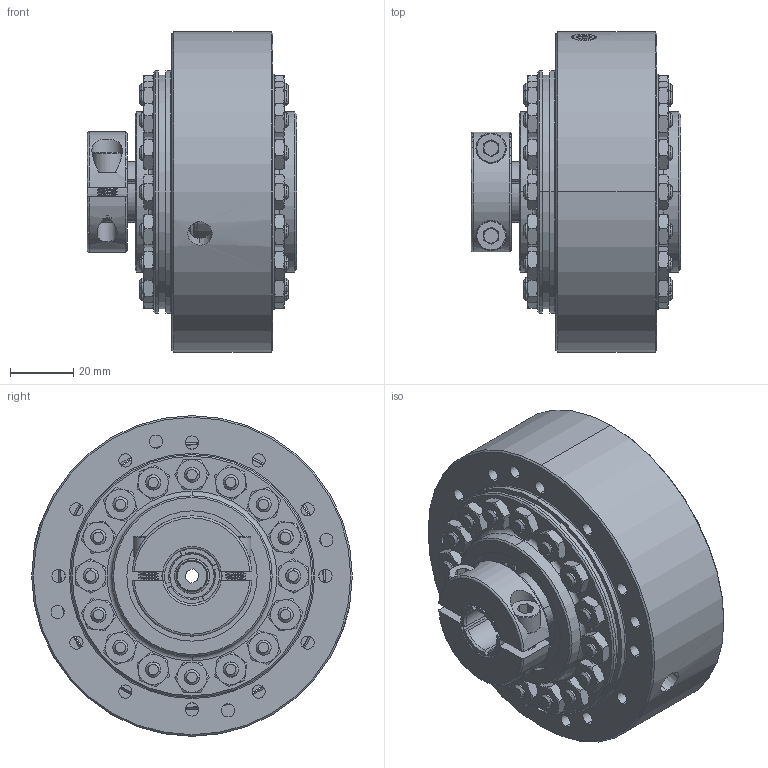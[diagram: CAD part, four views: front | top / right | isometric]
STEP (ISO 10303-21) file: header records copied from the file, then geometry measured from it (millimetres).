
FILE_DESCRIPTION (( 'STEP AP214' ), '1' );
FILE_NAME ('DM02RRRFTLN0000.STEP', '2019-10-30T16:56:05', ( '' ), ( '' ), 'SwSTEP 2.0', 'SolidWorks 2019', '' );
FILE_SCHEMA (( 'AUTOMOTIVE_DESIGN' ));
Length unit declared in the file: millimetre
Products named in the file (1): DM02RRRFTLN0000
Bounding box: 66.5 x 101.6 x 101.6 mm (x, y, z)
Surface area: 64312.5 mm2 (no closed solid volume)
Topology: 0 solids, 84 shells, 1075 faces, 3003 edges, 1986 vertices
Faces by surface type: cone 360, plane 315, cylinder 296, torus 48, sphere 48, bspline 8
Entity records: 56513 total; most frequent: CARTESIAN_POINT 18858, DIRECTION 5201, ORIENTED_EDGE 5098, EDGE_CURVE 3003, AXIS2_PLACEMENT_3D 2219, VERTEX_POINT 1986, EDGE_LOOP 1227, CIRCLE 1151
